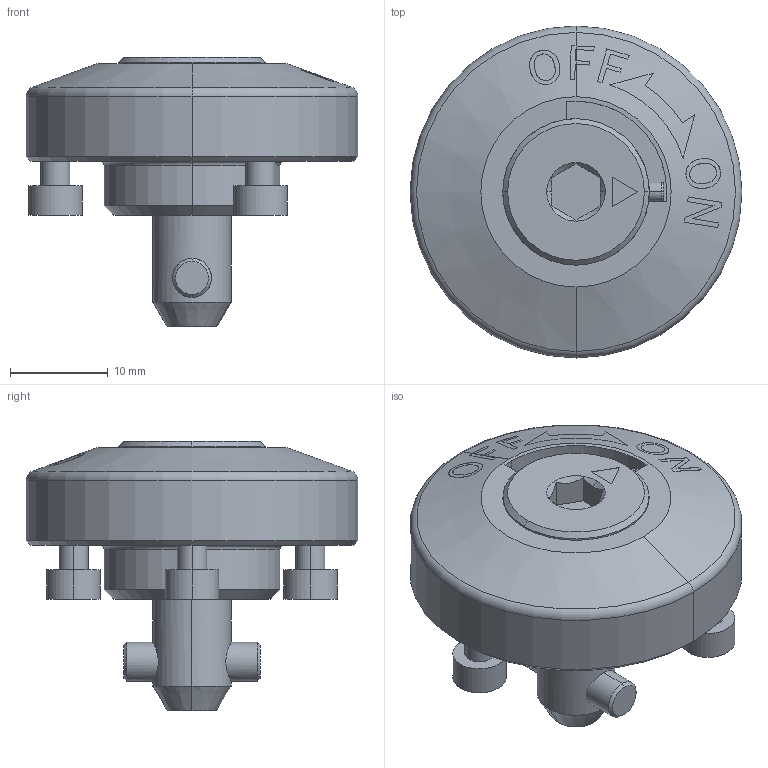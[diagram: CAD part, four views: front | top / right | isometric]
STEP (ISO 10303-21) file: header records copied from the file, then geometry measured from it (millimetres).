
FILE_DESCRIPTION (( 'STEP AP203' ), '1' );
FILE_NAME ('QCTHH0834-14-SUS.STEP', '2025-01-17T07:27:26', ( '' ), ( '' ), 'SwSTEP 2.0', 'SolidWorks 2023', '' );
FILE_SCHEMA (( 'CONFIG_CONTROL_DESIGN' ));
Length unit declared in the file: millimetre
Products named in the file (6): QCTHH0834-14-SUS_01; QCTHH0834-14-SUS_02; QCTHH0834-14-SUS_05; QCTHH0834-14-SUS_04; QCTHH0834-14-SUS_03; QCTHH0834-14-SUS
Assembly tree (5 placements, depth 2):
  QCTHH0834-14-SUS
    QCTHH0834-14-SUS_01
    QCTHH0834-14-SUS_02
    QCTHH0834-14-SUS_03
    QCTHH0834-14-SUS_04
    QCTHH0834-14-SUS_05
Bounding box: 34 x 34 x 27.6 mm (x, y, z)
Volume: 9314.2 mm3; surface area: 5416.4 mm2
Topology: 5 solids, 5 shells, 246 faces, 595 edges, 386 vertices
Faces by surface type: plane 110, cylinder 53, cone 47, bspline 32, torus 4
Entity records: 9135 total; most frequent: CARTESIAN_POINT 2983, ORIENTED_EDGE 1190, DIRECTION 1045, EDGE_CURVE 595, VERTEX_POINT 386, AXIS2_PLACEMENT_3D 378, VECTOR 289, LINE 289
